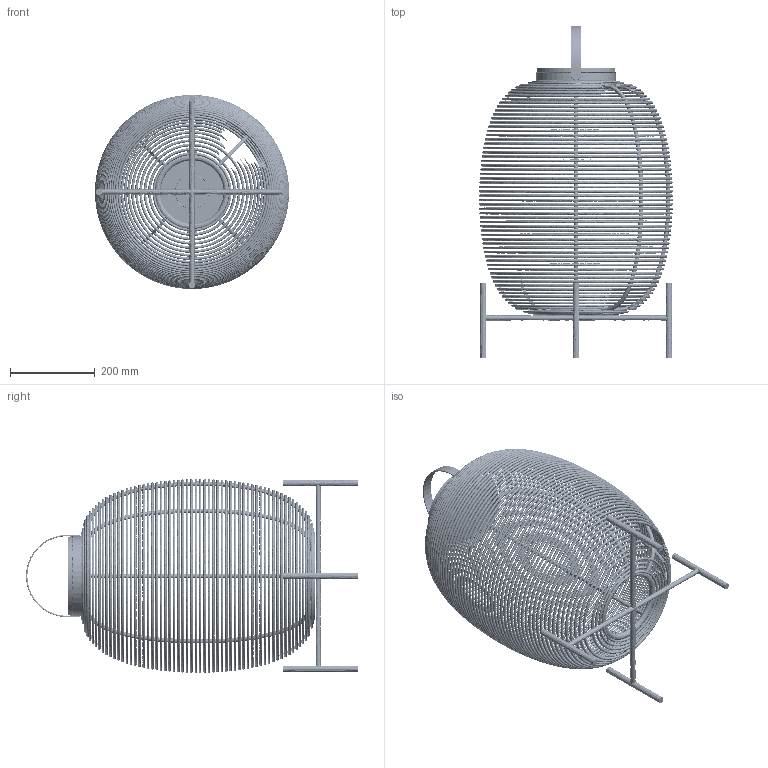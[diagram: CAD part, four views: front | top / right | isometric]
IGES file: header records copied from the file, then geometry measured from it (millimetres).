
Global section: file name: Tika Lantern Steel Base; native system: unknown; preprocessor: unknown; author: unknown; organization: unknown; date: 20200120.162010; units: millimetre
Bounding box: 457.69 x 782.42 x 457.69 mm (x, y, z)
Volume: 3900736.1 mm3; surface area: 2405633.4 mm2
Topology: 64 solids, 64 shells, 378 faces, 1970 edges, 1557 vertices
Faces by surface type: bspline 366, revolution 12
